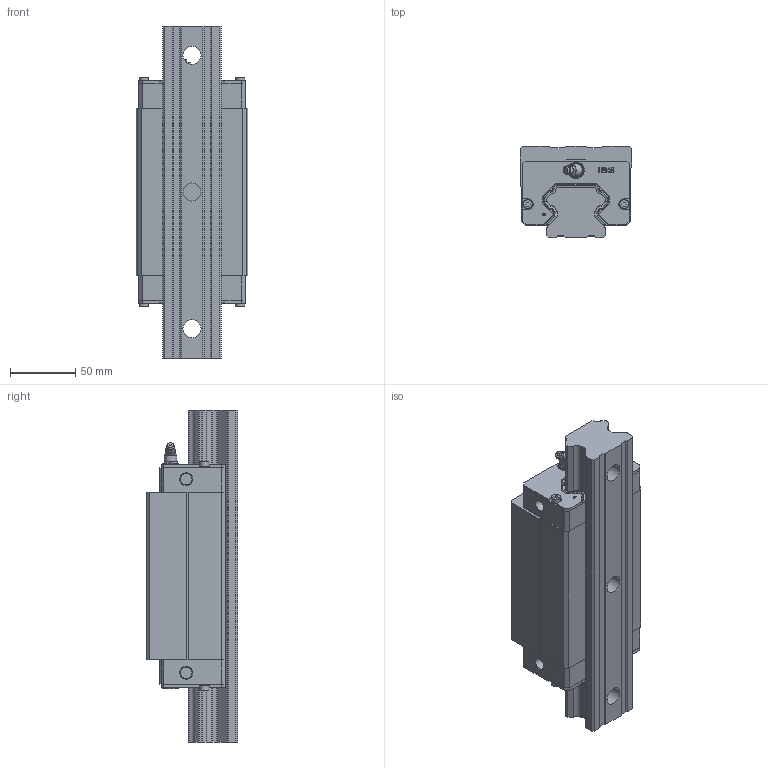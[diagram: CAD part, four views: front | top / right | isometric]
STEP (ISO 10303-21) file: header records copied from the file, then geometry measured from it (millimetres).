
FILE_DESCRIPTION(/* description */ (''),/* implementation_level */ '2;1');
FILE_NAME(/* name */ 'HBH45HA.stp',/* time_stamp */ '2024-09-29T20:51:18+08:00',/* author */ (''),/* organization */ (''),/* preprocessor_version */ 'ST-DEVELOPER v16.7',/* originating_system */ 'SIEMENS PLM Software NX 12.0',/* authorisation */ '');
FILE_SCHEMA (('AUTOMOTIVE_DESIGN { 1 0 10303 214 3 1 1 1 }'));
Products named in the file (3): HBH45HA; HBR45; HBH45HA_stp
Assembly tree (2 placements, depth 2):
  HBH45HA_stp
    HBR45
    HBH45HA
Bounding box: 86 x 70 x 255 mm (x, y, z)
Volume: 983384.1 mm3; surface area: 137332 mm2
Topology: 2 solids, 9 shells, 989 faces, 2600 edges, 1695 vertices
Faces by surface type: plane 602, cylinder 180, extrusion 94, cone 48, bspline 38, torus 24, sphere 3
Full cylindrical faces by diameter (mm): 3 x1, 4.4 x4, 6.6 x1, 7 x4, 8.5 x40, 9 x4, 9.5 x1, 10.003 x2, 10.1 x2, 12 x2, 12.5 x2
Entity records: 69479 total; most frequent: CARTESIAN_POINT 41806, ORIENTED_EDGE 4764, DIRECTION 4025, EDGE_CURVE 2382, VECTOR 1699, LINE 1605, VERTEX_POINT 1584, AXIS2_PLACEMENT_3D 1163
